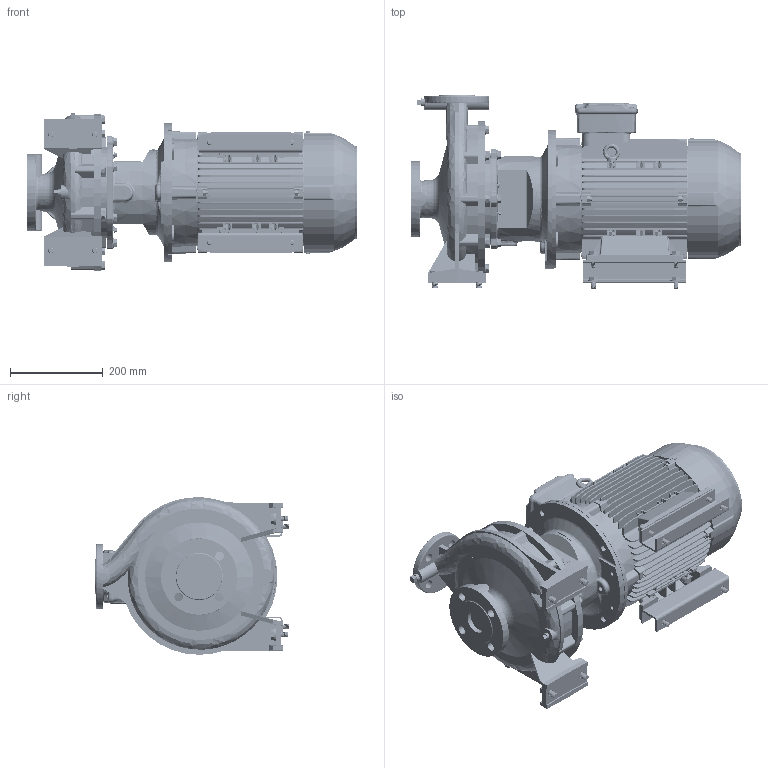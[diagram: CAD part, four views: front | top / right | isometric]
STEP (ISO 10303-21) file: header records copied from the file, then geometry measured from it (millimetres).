
FILE_DESCRIPTION (( 'STEP AP214' ), '1' );
FILE_NAME ('GSD2 32-250_9.2_(132M)_W21.STEP', '2026-07-02T05:09:44', ( '' ), ( '' ), 'SwSTEP 2.0', 'SolidWorks 2024', '' );
FILE_SCHEMA (( 'AUTOMOTIVE_DESIGN' ));
Length unit declared in the file: millimetre
Products named in the file (9): 178 x 48 - CGSDA-5242; Parametric Flat Washer_M10; Parametric bolt_SFT-A249B; Parametric Flat Washer_M12; Parametric bolt_SFT-A253B; 132M ALIE3_W21T_B35; 32-250-132M; Parametric bolt_SFT-A299B; GSD2  32-250_9.2_(132M)_W21
Assembly tree (28 placements, depth 2):
  GSD2  32-250_9.2_(132M)_W21
    32-250-132M
    178 x 48 - CGSDA-5242  x2
    Parametric bolt_SFT-A299B  x4
    Parametric bolt_SFT-A253B  x4
    Parametric bolt_SFT-A249B  x4
    Parametric Flat Washer_M10  x8
    Parametric Flat Washer_M12  x4
    132M ALIE3_W21T_B35
Bounding box: 714.8 x 419 x 340.5 mm (x, y, z)
Volume: 29813481.3 mm3; surface area: 2046699.1 mm2
Topology: 47 solids, 47 shells, 5367 faces, 14053 edges, 9123 vertices
Faces by surface type: plane 3048, cylinder 1373, torus 342, cone 289, bspline 283, sphere 32
Entity records: 183632 total; most frequent: CARTESIAN_POINT 66472, ORIENTED_EDGE 25344, DIRECTION 22710, EDGE_CURVE 12672, VERTEX_POINT 8243, VECTOR 8146, LINE 8146, AXIS2_PLACEMENT_3D 7282
